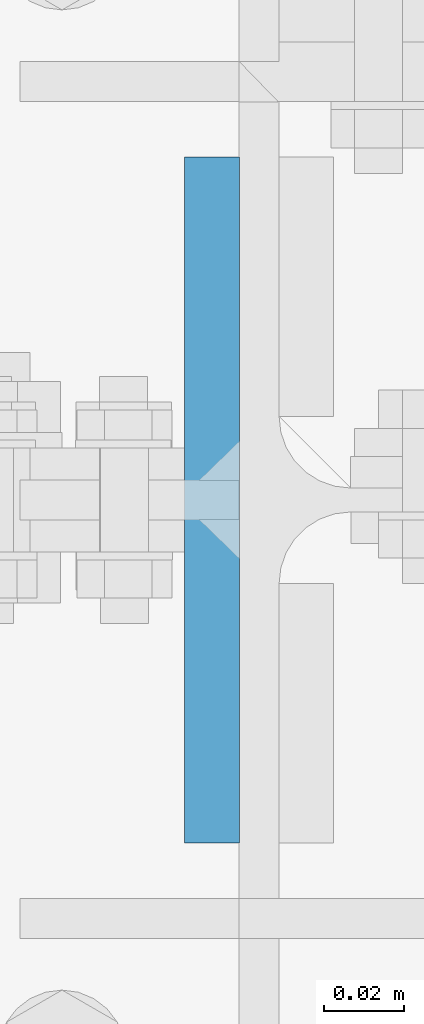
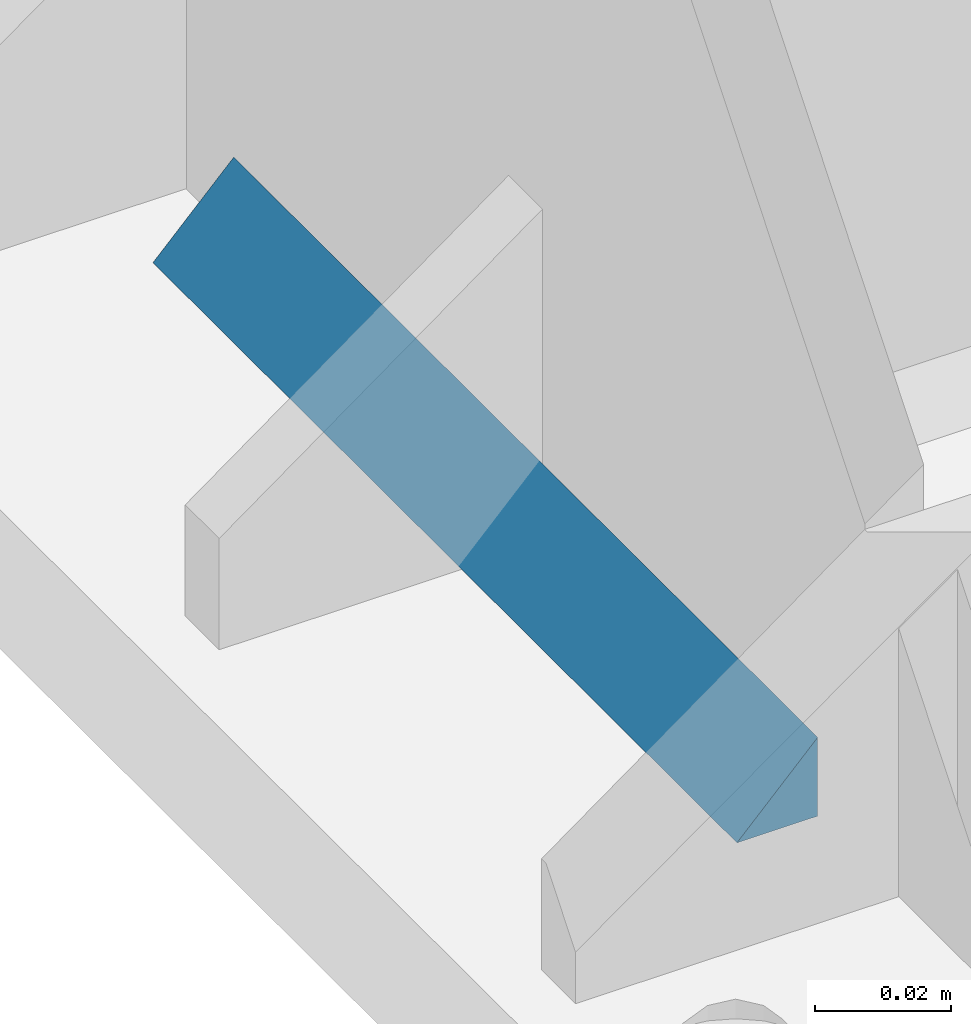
# One storey, part 26 of 251: 2 fasteners.
"""IFC4 building model written with IfcOpenShell, lengths in metres."""

from ifc_helpers import new_model, si_unit, frame, origin_with_axes, place, context, project, spatial, polyline, outline, extrude, type_object, element, save


model = new_model("IFC4")

# Units and contexts
model_context = context("Model", 3, precision=1e-05, world=origin_with_axes())
ifc_project = project(units=[si_unit("LENGTHUNIT", "METRE"), si_unit("AREAUNIT", "SQUARE_METRE"), si_unit("VOLUMEUNIT", "CUBIC_METRE"), si_unit("MASSUNIT", "GRAM", prefix="KILO"), si_unit("TIMEUNIT", "SECOND"), si_unit("PLANEANGLEUNIT", "RADIAN"), si_unit("SOLIDANGLEUNIT", "STERADIAN"), si_unit("THERMODYNAMICTEMPERATUREUNIT", "DEGREE_CELSIUS")], contexts=[model_context])

# Site, building, storey
placement_1 = place(None, origin_with_axes())
site = spatial("IfcSite", under=ifc_project, at=placement_1, Name="Italia", CompositionType="ELEMENT")
building = spatial("IfcBuilding", under=site, at=placement_1, Name="Deposito", CompositionType="ELEMENT")
storey = spatial("IfcBuildingStorey", under=building, at=placement_1, Name="Storey 0", CompositionType="ELEMENT", Elevation=0.0)

# Fasteners
fastener_type_1 = type_object("IfcFastenerType", Name="Collegamenti 0014_-001 0016_-054 0018_-056 0032_-002 0033_-058 0047_-003 0048_-060 0062_-004 0063_-005 0079_-008", PredefinedType="WELD")
placement_2 = place(placement_1, origin_with_axes())
fastener_1_placement = place(placement_2, origin_with_axes())
element("IfcFastener", 1, at=fastener_1_placement, inside=storey, type_object=fastener_type_1, Name="Collegamenti 0014_-001 0016_-054 0018_-056 0032_-002 0033_-058 0047_-003 0048_-060 0062_-004 0063_-005 0079_-008", context=model_context, shape_type="SweptSolid", body=[
    extrude(outline(polyline([(0.0, 0.0), (0.0137482, 0.0141734), (0.0137482, 0.0), (0.0, 0.0)])), frame((19.8913, 0.08605, 0.07495), z_axis=(0.0, -1.0, 0.0), x_axis=(1.0, 0.0, 0.0)), (0.0, 0.0, 1.0), 0.1721),
])
fastener_type_2 = type_object("IfcFastenerType", Name="Collegamenti 0014_-001 0016_-054 0018_-056 0032_-002 0033_-058 0047_-003 0048_-060 0062_-004 0063_-005 0079_-008", PredefinedType="WELD")
fastener_2_placement = place(placement_2, origin_with_axes())
element("IfcFastener", 2, at=fastener_2_placement, inside=storey, type_object=fastener_type_2, Name="Collegamenti 0014_-001 0016_-054 0018_-056 0032_-002 0033_-058 0047_-003 0048_-060 0062_-004 0063_-005 0079_-008", context=model_context, shape_type="SweptSolid", body=[
    extrude(outline(polyline([(0.0, 0.0), (0.0137482, 0.0141734), (0.0137482, 0.0), (0.0, 0.0)])), frame((19.8913, 0.08605, 0.07495), z_axis=(0.0, -1.0, 0.0), x_axis=(1.0, 0.0, 0.0)), (0.0, 0.0, 1.0), 0.1721),
])

save(model, "model.ifc")
